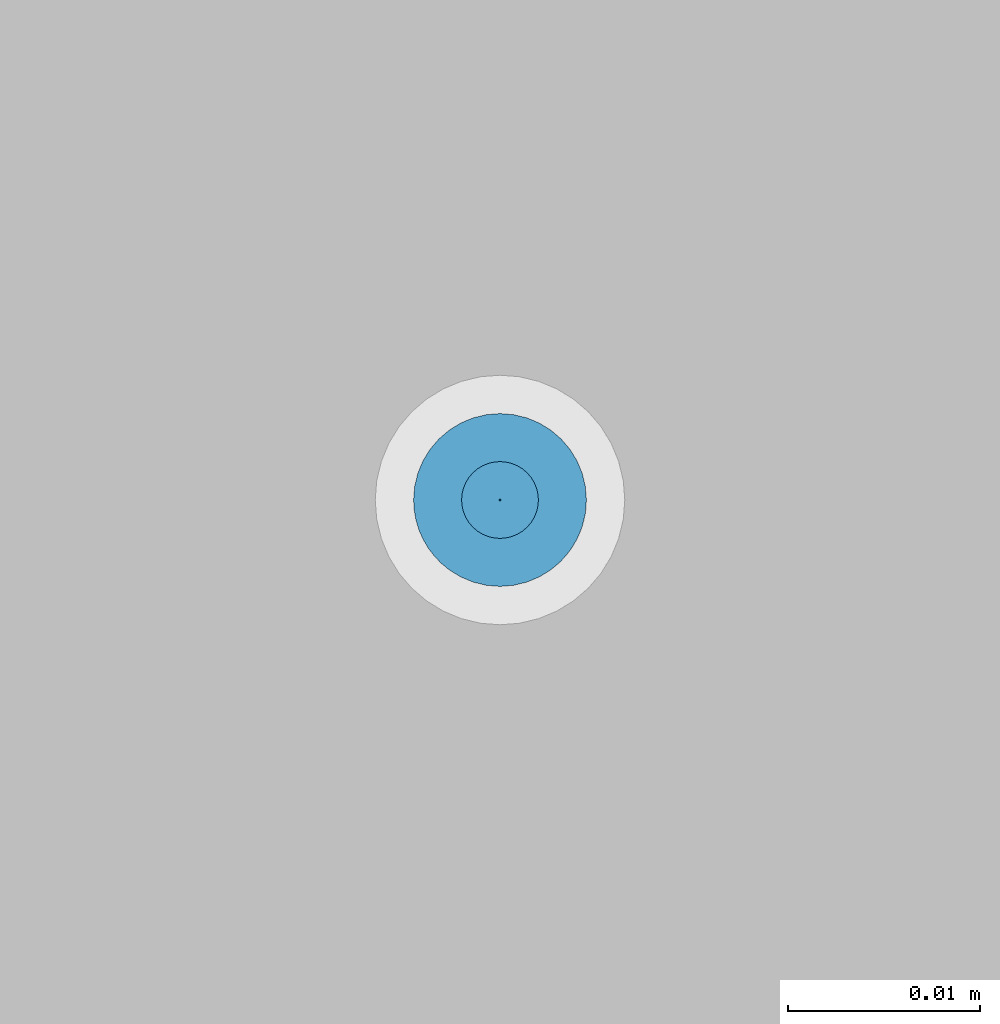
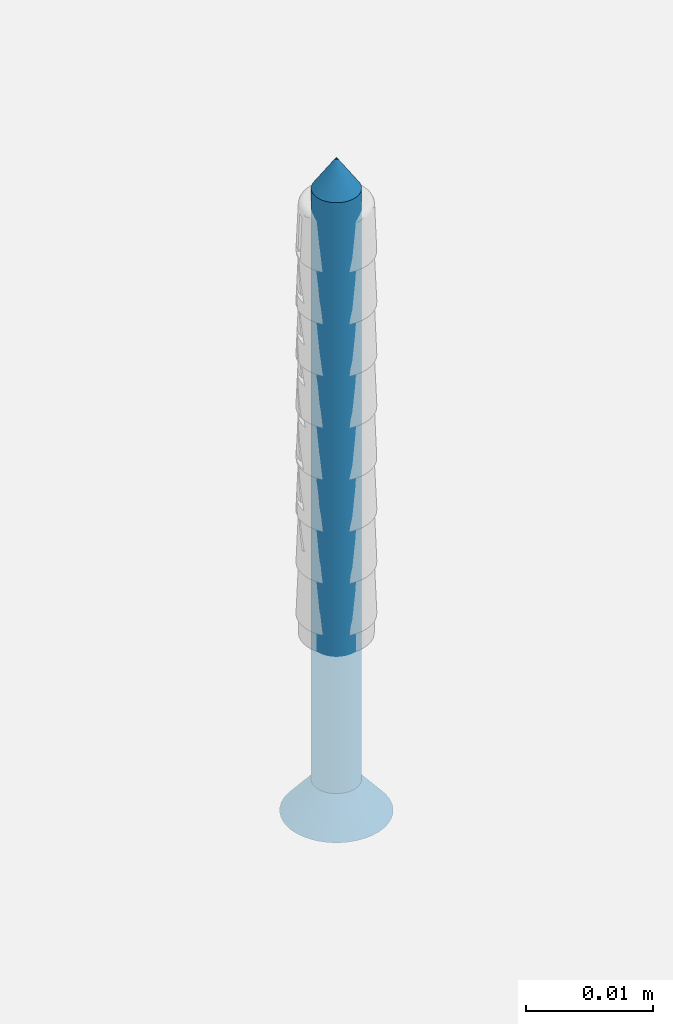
# One storey, part 14 of 92: 1 wall.
"""IFC2X3 building model written with IfcOpenShell, lengths in millimetres."""

import ifcopenshell
import ifcopenshell.guid

model = None  # the IFC model being written
_history = None  # IfcOwnerHistory: only IFC2X3 demands one
_inside = {}  # id of a spatial element -> (the spatial element, [elements in it])
_under = {}  # id of a project, library or spatial element -> (it, [spatial elements below it])
_declared = {}  # id of a project -> (the project, [libraries it declares])
_typed = {}  # id of a type object -> (the type object, [elements of that type])
_made_of = {}  # id of a material, layer set ... -> (it, [elements and type objects made of it])


def new_model(schema):
    """Start an empty IFC model of exactly this schema.

    Asked for "IFC4X3", IfcOpenShell would pick the latest addendum, in which some entities
    have other attributes; the version numbers below select the first issue.
    IFC2X3 requires an IfcOwnerHistory on every rooted entity: one is made here for all.
    """
    global model, _history
    if schema == "IFC4X3":
        model = ifcopenshell.file(schema_version=(4, 3, 0, 0))
    else:
        model = ifcopenshell.file(schema=schema)
    _inside.clear()
    _under.clear()
    _declared.clear()
    _typed.clear()
    _made_of.clear()
    _history = None
    if model.schema == "IFC2X3":
        org = make("IfcOrganization", Name="unknown")
        user = make(
            "IfcPersonAndOrganization",
            ThePerson=make("IfcPerson", FamilyName="unknown"),
            TheOrganization=org,
        )
        app = make(
            "IfcApplication",
            ApplicationDeveloper=org,
            Version="unknown",
            ApplicationFullName="unknown",
            ApplicationIdentifier="unknown",
        )
        _history = make(
            "IfcOwnerHistory",
            OwningUser=user,
            OwningApplication=app,
            ChangeAction="ADDED",
            CreationDate=0,
        )
    return model


def make(cls, **values):
    """One entity of the class cls with the attributes given. An attribute that is None is left unset."""
    return model.create_entity(
        cls, **{name: value for name, value in values.items() if value is not None}
    )


def rooted(cls, **values):
    """An entity with a GlobalId (a new one), such as an element, a storey or a relation."""
    return make(cls, GlobalId=ifcopenshell.guid.new(), OwnerHistory=_history, **values)


def si_unit(unit_type, name, prefix=None):
    """IfcSIUnit, for example si_unit("LENGTHUNIT", "METRE", prefix="MILLI")."""
    return make("IfcSIUnit", UnitType=unit_type, Prefix=prefix, Name=name)


def assignment(units):
    """IfcUnitAssignment: the units of a project."""
    return None if units is None else make("IfcUnitAssignment", Units=units)


def point(xyz):
    """IfcCartesianPoint."""
    return None if xyz is None else make("IfcCartesianPoint", Coordinates=xyz)


def direction(xyz):
    """IfcDirection."""
    return None if xyz is None else make("IfcDirection", DirectionRatios=xyz)


def frame(location, z_axis=None, x_axis=None):
    """IfcAxis2Placement3D, a coordinate frame: its origin and axes. An axis left out is left unset."""
    return make(
        "IfcAxis2Placement3D",
        Location=point(location),
        Axis=direction(z_axis),
        RefDirection=direction(x_axis),
    )


def origin_with_axes():
    """The frame at (0, 0, 0) with the z axis (0, 0, 1) and the x axis (1, 0, 0) written out."""
    return frame((0.0, 0.0, 0.0), z_axis=(0.0, 0.0, 1.0), x_axis=(1.0, 0.0, 0.0))


def place(relative_to, where):
    """IfcLocalPlacement: puts the frame where relative to a parent placement (None: the world)."""
    return make(
        "IfcLocalPlacement", PlacementRelTo=relative_to, RelativePlacement=where
    )


def context(
    kind, dimensions, precision=None, world=None, true_north=None, identifier=None
):
    """IfcGeometricRepresentationContext, for example the 3D "Model" context."""
    return make(
        "IfcGeometricRepresentationContext",
        ContextIdentifier=identifier,
        ContextType=kind,
        CoordinateSpaceDimension=dimensions,
        Precision=precision,
        WorldCoordinateSystem=world,
        TrueNorth=true_north,
    )


def subcontext(parent, identifier, kind, view, scale=None):
    """IfcGeometricRepresentationSubContext, for example "Body" below "Model"."""
    return make(
        "IfcGeometricRepresentationSubContext",
        ContextIdentifier=identifier,
        ContextType=kind,
        ParentContext=parent,
        TargetScale=scale,
        TargetView=view,
    )


def project(units=None, contexts=None):
    """IfcProject with its units and contexts."""
    return rooted(
        "IfcProject",
        Name="project",
        RepresentationContexts=contexts,
        UnitsInContext=assignment(units),
    )


def spatial(cls, under=None, at=None, **own):
    """A site, building, storey or space (cls), placed at a placement, below another one or the project."""
    s = rooted(cls, ObjectPlacement=at, **own)
    if under is not None:
        _under.setdefault(under.id(), (under, []))[1].append(s)
    return s


def faces_of(points, faces, orient=None, outer=None):
    """IfcFace entities. A face is a list of loops; a loop is a list of indices into points, from 0.

    orient and outer hold one flag for each loop. By default every Orientation is true, the
    first loop of a face is its IfcFaceOuterBound and the others are IfcFaceBound.
    """
    made = []
    for i, loops in enumerate(faces):
        bounds = []
        for j, loop in enumerate(loops):
            is_outer = j == 0 if outer is None else outer[i][j]
            bounds.append(
                make(
                    "IfcFaceOuterBound" if is_outer else "IfcFaceBound",
                    Bound=make("IfcPolyLoop", Polygon=[points[k] for k in loop]),
                    Orientation=True if orient is None else orient[i][j],
                )
            )
        made.append(make("IfcFace", Bounds=bounds))
    return made


def faceted_brep(points, faces, orient=None, outer=None, voids=None):
    """IfcFacetedBrep: a solid bounded by flat faces; with voids (closed shells), ...WithVoids."""
    shared = [point(p) for p in points]
    hull = make("IfcClosedShell", CfsFaces=faces_of(shared, faces, orient, outer))
    if voids is None:
        return make("IfcFacetedBrep", Outer=hull)
    return make(
        "IfcFacetedBrepWithVoids",
        Outer=hull,
        Voids=[
            make(cls, CfsFaces=faces_of(shared, fs, o, b)) for cls, fs, o, b in voids
        ],
    )


def shape(context_of_items, identifier, shape_type, items):
    """IfcShapeRepresentation: the items that make up one representation, for example the "Body"."""
    return make(
        "IfcShapeRepresentation",
        ContextOfItems=context_of_items,
        RepresentationIdentifier=identifier,
        RepresentationType=shape_type,
        Items=items,
    )


def material(Name=None, Category=None):
    """IfcMaterial."""
    return make("IfcMaterial", Name=Name, Category=Category)


def made_of(thing, what):
    """Note that an element or type object is made of a material, layer set ...; save() writes the relation."""
    if what is not None:
        _made_of.setdefault(what.id(), (what, []))[1].append(thing)
    return thing


def type_object(cls, material=None, **own):
    """A type object (cls), such as IfcWallType, which elements share."""
    return made_of(rooted(cls, **own), material)


def element(
    cls,
    number,
    at=None,
    inside=None,
    cuts=None,
    type_object=None,
    material=None,
    context=None,
    identifier="Body",
    shape_type=None,
    held_by="IfcProductDefinitionShape",
    body=None,
    shapes=None,
    **own,
):
    """One element of the class cls, such as IfcWall. Its Tag is "e" and its number.

    at: its placement. inside: the storey or other place that contains it. cuts: it is an
    opening in that element (IfcRelVoidsElement). A single representation is given by context,
    identifier, shape_type and body (its items); several are given by shapes. held_by: the class
    of the entity that holds the representations. save() writes the other relations.
    """
    e = rooted(cls, Tag="e%d" % number, ObjectPlacement=at, **own)
    if body is not None:
        shapes = [shape(context, identifier, shape_type, body)]
    if shapes is not None:
        e.Representation = make(held_by, Representations=shapes)
    if inside is not None:
        _inside.setdefault(inside.id(), (inside, []))[1].append(e)
    if cuts is not None:
        rooted(
            "IfcRelVoidsElement", RelatingBuildingElement=cuts, RelatedOpeningElement=e
        )
    if type_object is not None:
        _typed.setdefault(type_object.id(), (type_object, []))[1].append(e)
    return made_of(e, material)


def aggregate(whole, parts):
    """IfcRelAggregates: a whole, such as a stair, and the parts it consists of."""
    return rooted("IfcRelAggregates", RelatingObject=whole, RelatedObjects=parts)


def save(model, path):
    """Write the relations noted so far, then the file.

    IfcRelAggregates (storeys below a building ...), IfcRelContainedInSpatialStructure (elements
    in a storey), IfcRelDefinesByType, IfcRelAssociatesMaterial and IfcRelDeclares: one each for
    every whole, place, type object, material and project.
    """
    for whole, parts in _under.values():
        aggregate(whole, parts)
    for where, things in _inside.values():
        rooted(
            "IfcRelContainedInSpatialStructure",
            RelatedElements=things,
            RelatingStructure=where,
        )
    for kind, things in _typed.values():
        rooted("IfcRelDefinesByType", RelatedObjects=things, RelatingType=kind)
    for what, things in _made_of.values():
        rooted("IfcRelAssociatesMaterial", RelatedObjects=things, RelatingMaterial=what)
    for by, libraries in _declared.values():
        rooted("IfcRelDeclares", RelatingContext=by, RelatedDefinitions=libraries)
    model.write(path)


model = new_model("IFC2X3")

# Units and contexts
model_context = context("Model", 3, world=origin_with_axes())
body_context = subcontext(model_context, "Body", "Model", "MODEL_VIEW")
ifc_project = project(units=[si_unit("LENGTHUNIT", "METRE", prefix="MILLI"), si_unit("AREAUNIT", "SQUARE_METRE"), si_unit("VOLUMEUNIT", "CUBIC_METRE")], contexts=[model_context])

# Site, building, storey
site_placement = place(None, origin_with_axes())
site = spatial("IfcSite", under=ifc_project, at=site_placement, Name="Default Site", CompositionType="ELEMENT")
building_placement = place(site_placement, origin_with_axes())
building = spatial("IfcBuilding", under=site, at=building_placement, Name="Default Building", CompositionType="ELEMENT")
storey_placement = place(building_placement, origin_with_axes())
storey = spatial("IfcBuildingStorey", under=building, at=storey_placement, Name="Default Building Storey", CompositionType="ELEMENT", Elevation=0.0)

# Wall
ifc_material = material(Name="Default")
wall_type = type_object("IfcWallType", Name="Kołek rozporowy min. fi 6", PredefinedType="NOTDEFINED")
wall_placement = place(storey_placement, frame((3530.2813105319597, 2355.5457902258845, 2570.0054142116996), z_axis=(5.273559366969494e-16, -2.122374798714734e-31, -1.0), x_axis=(4.0245584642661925e-16, 1.0, 0.0)))
element("IfcWall", 1, at=wall_placement, inside=storey, type_object=wall_type, material=ifc_material, Name="Kołek rozporowy min. fi 6", context=body_context, shape_type="Brep", body=[
    faceted_brep([(-1438.2587671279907, -3452.579259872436, -0.46425670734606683), (-1435.7895851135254, -3452.970266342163, -3.464256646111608), (-1435.8141422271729, -3453.2833099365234, -3.464256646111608), (-1438.3141994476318, -3453.2833099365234, -0.46425670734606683), (-1438.093900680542, -3451.892614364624, -0.46425670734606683), (-1435.7162714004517, -3452.6650905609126, -3.464256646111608), (-1437.8236532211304, -3451.240301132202, -0.46425670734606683), (-1435.5961084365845, -3452.3751735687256, -3.464256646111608), (-1437.4547004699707, -3450.6382942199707, -0.46425670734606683), (-1435.4321956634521, -3452.107667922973, -3.464256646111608), (-1436.9961023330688, -3450.101137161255, -0.46425670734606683), (-1435.22834777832, -3451.8690109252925, -3.464256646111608), (-1436.4591836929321, -3449.642658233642, -0.46425670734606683), (-1434.9896907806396, -3451.665163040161, -3.464256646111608), (-1435.8570575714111, -3449.2735862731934, -0.46425670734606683), (-1434.7221851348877, -3451.501131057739, -3.464256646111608), (-1435.2047443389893, -3449.0034580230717, -0.46425670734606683), (-1434.4321489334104, -3451.381206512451, -3.464256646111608), (-1434.5180988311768, -3448.838710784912, -0.46425670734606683), (-1434.1269731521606, -3451.307773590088, -3.464256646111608), (-1433.8141679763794, -3448.7831592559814, -0.46425670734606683), (-1433.8141679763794, -3451.28321647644, -3.464256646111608), (-1433.110237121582, -3448.838710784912, -0.46425670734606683), (-1433.5012435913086, -3451.307773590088, -3.464256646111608), (-1432.4235916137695, -3449.0034580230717, -0.46425670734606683), (-1433.1960678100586, -3451.381206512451, -3.464256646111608), (-1431.771159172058, -3449.2735862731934, -0.46425670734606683), (-1432.9061508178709, -3451.501131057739, -3.464256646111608), (-1431.1691522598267, -3449.642658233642, -0.46425670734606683), (-1432.6385259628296, -3451.665163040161, -3.464256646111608), (-1430.6321144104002, -3450.101137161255, -0.46425670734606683), (-1432.3999881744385, -3451.8690109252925, -3.464256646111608), (-1430.1735162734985, -3450.6382942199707, -0.46425670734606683), (-1432.1961402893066, -3452.107667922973, -3.464256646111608), (-1429.8045635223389, -3451.240301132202, -0.46425670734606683), (-1432.0321083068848, -3452.3751735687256, -3.464256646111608), (-1429.5344352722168, -3451.892614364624, -0.46425670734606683), (-1431.9120645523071, -3452.6650905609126, -3.464256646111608), (-1431.814193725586, -3453.2833099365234, -3.464256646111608), (-1429.314136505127, -3453.2833099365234, -0.46425670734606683), (-1429.369568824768, -3453.9871215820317, -0.46425670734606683), (-1431.8387508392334, -3453.5961151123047, -3.464256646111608), (-1431.8387508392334, -3452.970266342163, -3.464256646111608), (-1429.369568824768, -3452.579259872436, -0.46425670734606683), (-1429.5344352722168, -3454.6737670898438, -0.46425670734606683), (-1431.9120645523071, -3453.9012908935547, -3.464256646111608), (-1429.8045635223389, -3455.3260803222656, -0.46425670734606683), (-1432.0321083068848, -3454.191207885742, -3.464256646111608), (-1430.1735162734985, -3455.9283256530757, -0.46425670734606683), (-1432.1961402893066, -3454.458713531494, -3.464256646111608), (-1430.6321144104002, -3456.465244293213, -0.46425670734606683), (-1432.3999881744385, -3454.6973705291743, -3.464256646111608), (-1431.1691522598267, -3456.923723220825, -0.46425670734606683), (-1432.6385259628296, -3454.9012184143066, -3.464256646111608), (-1431.771159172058, -3457.2927951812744, -0.46425670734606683), (-1432.9061508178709, -3455.065250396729, -3.464256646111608), (-1432.4235916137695, -3457.562923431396, -0.46425670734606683), (-1433.1960678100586, -3455.1854133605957, -3.464256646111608), (-1433.110237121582, -3457.7279090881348, -0.46425670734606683), (-1433.5012435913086, -3455.25860786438, -3.464256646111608), (-1433.8141679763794, -3457.7832221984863, -0.46425670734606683), (-1433.8141679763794, -3455.283164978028, -3.464256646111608), (-1434.1269731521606, -3455.25860786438, -3.464256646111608), (-1434.3430995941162, -3457.7519893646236, -0.46425670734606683), (-1434.4321489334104, -3455.1854133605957, -3.464256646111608), (-1434.8646402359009, -3457.6590061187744, -0.46425670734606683), (-1435.3716373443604, -3457.504987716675, -0.46425670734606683), (-1434.7221851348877, -3455.065250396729, -3.464256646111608), (-1435.8570575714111, -3457.2927951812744, -0.46425670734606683), (-1436.3142251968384, -3457.024812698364, -0.46425670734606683), (-1435.22834777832, -3454.6973705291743, -3.464256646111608), (-1434.9896907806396, -3454.9012184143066, -3.464256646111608), (-1436.7367029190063, -3456.705093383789, -0.46425670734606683), (-1437.118649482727, -3456.337928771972, -0.46425670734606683), (-1435.4321956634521, -3454.458713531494, -3.464256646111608), (-1437.4547004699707, -3455.9283256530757, -0.46425670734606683), (-1437.8236532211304, -3455.3260803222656, -0.46425670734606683), (-1435.5961084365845, -3454.191207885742, -3.464256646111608), (-1438.093900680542, -3454.6737670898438, -0.46425670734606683), (-1435.7162714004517, -3453.9012908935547, -3.464256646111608), (-1438.2587671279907, -3453.9871215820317, -0.46425670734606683), (-1435.7895851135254, -3453.5961151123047, -3.464256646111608), (-1433.8141679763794, -3455.7831287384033, 0.20073754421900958), (-1434.2052936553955, -3455.752372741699, 0.20073754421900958), (-1434.5866441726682, -3455.6608200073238, 0.20073754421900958), (-1434.9491596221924, -3455.510854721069, 0.20073754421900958), (-1435.2836608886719, -3455.305814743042, 0.20073754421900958), (-1435.581922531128, -3455.0509452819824, 0.20073754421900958), (-1435.836672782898, -3454.7526836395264, 0.20073754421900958), (-1436.0417127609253, -3454.418182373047, 0.20073754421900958), (-1436.1917972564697, -3454.0557861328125, 0.20073754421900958), (-1436.2833499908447, -3453.6743164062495, 0.20073754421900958), (-1436.3141059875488, -3453.2833099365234, 0.20073754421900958), (-1436.2833499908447, -3452.8920650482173, 0.20073754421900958), (-1436.1917972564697, -3452.5105953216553, 0.20073754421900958), (-1436.0417127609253, -3452.148199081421, 0.20073754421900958), (-1435.836672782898, -3451.8136978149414, 0.20073754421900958), (-1435.581922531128, -3451.5154361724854, 0.20073754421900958), (-1435.2836608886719, -3451.260566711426, 0.20073754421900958), (-1434.9491596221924, -3451.0557651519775, 0.20073754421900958), (-1434.5866441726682, -3450.905561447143, 0.20073754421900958), (-1433.8141679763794, -3450.7832527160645, 0.20073754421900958), (-1433.4230422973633, -3450.8140087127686, 0.20073754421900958), (-1434.2052936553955, -3450.8140087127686, 0.20073754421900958), (-1433.0415725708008, -3450.905561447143, 0.20073754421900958), (-1432.6791763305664, -3451.0557651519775, 0.20073754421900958), (-1432.344675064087, -3451.260566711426, 0.20073754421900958), (-1432.0464134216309, -3451.5154361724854, 0.20073754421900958), (-1431.7916631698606, -3451.8136978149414, 0.20073754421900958), (-1431.5866231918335, -3452.148199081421, 0.20073754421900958), (-1431.436538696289, -3452.5105953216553, 0.20073754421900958), (-1431.344985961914, -3452.8920650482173, 0.20073754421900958), (-1431.3141107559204, -3453.2833099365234, 0.20073754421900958), (-1431.344985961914, -3453.6743164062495, 0.20073754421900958), (-1431.436538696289, -3454.0557861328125, 0.20073754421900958), (-1431.5866231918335, -3454.418182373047, 0.20073754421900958), (-1431.7916631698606, -3454.7526836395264, 0.20073754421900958), (-1432.0464134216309, -3455.0509452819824, 0.20073754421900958), (-1432.344675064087, -3455.305814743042, 0.20073754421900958), (-1432.6791763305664, -3455.510854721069, 0.20073754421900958), (-1433.0415725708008, -3455.6608200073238, 0.20073754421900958), (-1433.4230422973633, -3455.752372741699, 0.20073754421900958), (-1435.8141422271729, -3453.2833099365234, -60.464255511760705), (-1435.7895851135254, -3452.970266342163, -60.464255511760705), (-1433.8141679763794, -3453.2833099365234, -63.46425414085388), (-1435.7162714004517, -3452.6650905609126, -60.464255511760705), (-1435.5961084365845, -3452.3751735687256, -60.464255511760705), (-1435.4321956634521, -3452.107667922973, -60.464255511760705), (-1435.22834777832, -3451.8690109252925, -60.464255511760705), (-1434.9896907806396, -3451.665163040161, -60.464255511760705), (-1434.7221851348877, -3451.501131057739, -60.464255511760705), (-1434.4321489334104, -3451.381206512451, -60.464255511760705), (-1434.1269731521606, -3451.307773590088, -60.464255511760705), (-1433.8141679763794, -3451.28321647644, -60.464255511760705), (-1433.5012435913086, -3451.307773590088, -60.464255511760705), (-1433.1960678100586, -3451.381206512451, -60.464255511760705), (-1432.9061508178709, -3451.501131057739, -60.464255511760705), (-1432.6385259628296, -3451.665163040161, -60.464255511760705), (-1432.3999881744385, -3451.8690109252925, -60.464255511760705), (-1432.1961402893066, -3452.107667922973, -60.464255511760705), (-1432.0321083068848, -3452.3751735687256, -60.464255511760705), (-1431.9120645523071, -3452.6650905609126, -60.464255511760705), (-1431.8387508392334, -3452.970266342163, -60.464255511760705), (-1431.814193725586, -3453.2833099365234, -60.464255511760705), (-1431.8387508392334, -3453.5961151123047, -60.464255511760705), (-1431.9120645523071, -3453.9012908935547, -60.464255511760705), (-1432.0321083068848, -3454.191207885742, -60.464255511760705), (-1432.1961402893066, -3454.458713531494, -60.464255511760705), (-1432.3999881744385, -3454.6973705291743, -60.464255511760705), (-1432.6385259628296, -3454.9012184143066, -60.464255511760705), (-1432.9061508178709, -3455.065250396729, -60.464255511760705), (-1433.1960678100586, -3455.1854133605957, -60.464255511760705), (-1433.5012435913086, -3455.25860786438, -60.464255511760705), (-1433.8141679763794, -3455.283164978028, -60.464255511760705), (-1434.1269731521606, -3455.25860786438, -60.464255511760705), (-1434.4321489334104, -3455.1854133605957, -60.464255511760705), (-1434.7221851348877, -3455.065250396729, -60.464255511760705), (-1434.9896907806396, -3454.9012184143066, -60.464255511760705), (-1435.22834777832, -3454.6973705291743, -60.464255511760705), (-1435.4321956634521, -3454.458713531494, -60.464255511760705), (-1435.5961084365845, -3454.191207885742, -60.464255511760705), (-1435.7162714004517, -3453.9012908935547, -60.464255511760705), (-1435.7895851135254, -3453.5961151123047, -60.464255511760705), (-1436.1917972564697, -3454.0557861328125, 0.049999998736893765), (-1436.0417127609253, -3454.418182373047, 0.049999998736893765), (-1435.836672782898, -3454.7526836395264, 0.049999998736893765), (-1435.581922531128, -3455.0509452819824, 0.049999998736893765), (-1435.2836608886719, -3455.305814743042, 0.049999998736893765), (-1434.9491596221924, -3455.510854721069, 0.049999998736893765), (-1434.5866441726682, -3455.6608200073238, 0.049999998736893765), (-1434.2052936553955, -3455.752372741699, 0.049999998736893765), (-1433.8141679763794, -3455.7831287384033, 0.049999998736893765), (-1433.4230422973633, -3455.752372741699, 0.049999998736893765), (-1433.0415725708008, -3455.6608200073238, 0.049999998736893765), (-1432.6791763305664, -3455.510854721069, 0.049999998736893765), (-1432.344675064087, -3455.305814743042, 0.049999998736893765), (-1432.0464134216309, -3455.0509452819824, 0.049999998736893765), (-1431.7916631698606, -3454.7526836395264, 0.049999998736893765), (-1431.5866231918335, -3454.418182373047, 0.049999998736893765), (-1431.436538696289, -3454.0557861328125, 0.049999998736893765), (-1431.344985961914, -3453.6743164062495, 0.049999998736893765), (-1431.3141107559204, -3453.2833099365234, 0.049999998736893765), (-1431.344985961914, -3452.8920650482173, 0.049999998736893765), (-1431.436538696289, -3452.5105953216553, 0.049999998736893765), (-1431.5866231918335, -3452.148199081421, 0.049999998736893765), (-1431.7916631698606, -3451.8136978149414, 0.049999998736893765), (-1432.0464134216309, -3451.5154361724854, 0.049999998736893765), (-1432.344675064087, -3451.260566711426, 0.049999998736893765), (-1432.6791763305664, -3451.0557651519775, 0.049999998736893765), (-1433.0415725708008, -3450.905561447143, 0.049999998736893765), (-1433.4230422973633, -3450.8140087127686, 0.049999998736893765), (-1433.8141679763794, -3450.7832527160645, 0.049999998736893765), (-1434.2052936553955, -3450.8140087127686, 0.049999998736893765), (-1434.5866441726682, -3450.905561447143, 0.049999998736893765), (-1434.9491596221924, -3451.0557651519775, 0.049999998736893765), (-1435.2836608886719, -3451.260566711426, 0.049999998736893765), (-1435.581922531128, -3451.5154361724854, 0.049999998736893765), (-1435.836672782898, -3451.8136978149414, 0.049999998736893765), (-1436.0417127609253, -3452.148199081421, 0.049999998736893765), (-1436.1917972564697, -3452.5105953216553, 0.049999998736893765), (-1436.2833499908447, -3452.8920650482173, 0.049999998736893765), (-1436.3141059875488, -3453.2833099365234, 0.049999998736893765), (-1436.2833499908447, -3453.6743164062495, 0.049999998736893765), (-1434.3141317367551, -3453.7832736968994, 0.049999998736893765), (-1435.8141422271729, -3453.7832736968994, 0.049999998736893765), (-1435.8141422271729, -3452.7831077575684, 0.049999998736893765), (-1434.3141317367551, -3452.7831077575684, 0.049999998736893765), (-1434.3141317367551, -3451.28321647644, 0.049999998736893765), (-1433.3142042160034, -3451.28321647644, 0.049999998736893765), (-1433.3142042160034, -3452.7831077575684, 0.049999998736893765), (-1431.814193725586, -3452.7831077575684, 0.049999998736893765), (-1431.814193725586, -3453.7832736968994, 0.049999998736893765), (-1433.3142042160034, -3453.7832736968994, 0.049999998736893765), (-1433.3142042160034, -3455.283164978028, 0.049999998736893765), (-1434.3141317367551, -3455.283164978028, 0.049999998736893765), (-1435.8141422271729, -3452.7831077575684, -1.799262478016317), (-1435.8141422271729, -3453.7832736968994, -1.799262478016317), (-1434.3141317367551, -3453.7832736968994, -1.799262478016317), (-1434.3141317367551, -3455.283164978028, -1.799262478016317), (-1433.3142042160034, -3455.283164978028, -1.799262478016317), (-1433.3142042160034, -3453.7832736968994, -1.799262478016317), (-1431.814193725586, -3453.7832736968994, -1.799262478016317), (-1431.814193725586, -3452.7831077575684, -1.799262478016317), (-1433.3142042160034, -3452.7831077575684, -1.799262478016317), (-1433.3142042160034, -3451.28321647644, -1.799262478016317), (-1434.3141317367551, -3451.28321647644, -1.799262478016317), (-1434.3141317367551, -3452.7831077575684, -1.799262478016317)], [[[0, 1, 2, 3]], [[1, 0, 4, 5]], [[5, 4, 6, 7]], [[8, 9, 7, 6]], [[9, 8, 10, 11]], [[12, 13, 11, 10]], [[13, 12, 14, 15]], [[15, 14, 16, 17]], [[18, 19, 17, 16]], [[19, 18, 20, 21]], [[22, 23, 21, 20]], [[23, 22, 24, 25]], [[25, 24, 26, 27]], [[28, 29, 27, 26]], [[29, 28, 30, 31]], [[32, 33, 31, 30]], [[33, 32, 34, 35]], [[35, 34, 36, 37]], [[38, 39, 40, 41]], [[42, 43, 39, 38]], [[43, 42, 37, 36]], [[41, 40, 44, 45]], [[45, 44, 46, 47]], [[48, 49, 47, 46]], [[49, 48, 50, 51]], [[52, 53, 51, 50]], [[53, 52, 54, 55]], [[55, 54, 56, 57]], [[58, 59, 57, 56]], [[59, 58, 60, 61]], [[62, 60, 63]], [[62, 61, 60]], [[63, 64, 62]], [[63, 65, 64]], [[64, 65, 66]], [[66, 67, 64]], [[66, 68, 67]], [[69, 70, 71]], [[69, 72, 70]], [[71, 68, 69]], [[71, 67, 68]], [[72, 73, 70]], [[74, 73, 75]], [[74, 70, 73]], [[74, 75, 76, 77]], [[77, 76, 78, 79]], [[80, 81, 79, 78]], [[81, 80, 3, 2]], [[63, 82, 83]], [[63, 60, 82]], [[83, 65, 63]], [[83, 84, 65]], [[84, 68, 66]], [[84, 85, 68]], [[66, 65, 84]], [[69, 85, 86]], [[69, 68, 85]], [[87, 73, 72]], [[72, 86, 87]], [[72, 69, 86]], [[75, 87, 88]], [[75, 73, 87]], [[75, 88, 89, 76]], [[76, 89, 90, 78]], [[91, 80, 78, 90]], [[80, 91, 92, 3]], [[93, 0, 3, 92]], [[0, 93, 94, 4]], [[4, 94, 95, 6]], [[96, 8, 6, 95]], [[8, 96, 97, 10]], [[98, 12, 10, 97]], [[12, 98, 99, 14]], [[14, 99, 100, 16]], [[20, 101, 102, 22]], [[18, 103, 101, 20]], [[103, 18, 16, 100]], [[22, 102, 104, 24]], [[24, 104, 105, 26]], [[106, 28, 26, 105]], [[28, 106, 107, 30]], [[108, 32, 30, 107]], [[32, 108, 109, 34]], [[34, 109, 110, 36]], [[111, 43, 36, 110]], [[43, 111, 112, 39]], [[113, 40, 39, 112]], [[40, 113, 114, 44]], [[44, 114, 115, 46]], [[116, 48, 46, 115]], [[48, 116, 117, 50]], [[118, 52, 50, 117]], [[52, 118, 119, 54]], [[54, 119, 120, 56]], [[121, 58, 56, 120]], [[58, 121, 82, 60]], [[122, 123, 124]], [[123, 125, 124]], [[125, 126, 124]], [[124, 126, 127]], [[127, 128, 124]], [[124, 128, 129]], [[129, 130, 124]], [[130, 131, 124]], [[124, 131, 132]], [[132, 133, 124]], [[124, 133, 134]], [[134, 135, 124]], [[135, 136, 124]], [[124, 136, 137]], [[137, 138, 124]], [[124, 138, 139]], [[139, 140, 124]], [[140, 141, 124]], [[124, 141, 142]], [[142, 143, 124]], [[124, 143, 144]], [[144, 145, 124]], [[145, 146, 124]], [[124, 146, 147]], [[147, 148, 124]], [[124, 148, 149]], [[149, 150, 124]], [[150, 151, 124]], [[124, 151, 152]], [[152, 153, 124]], [[124, 153, 154]], [[154, 155, 124]], [[155, 156, 124]], [[124, 156, 157]], [[157, 158, 124]], [[124, 158, 159]], [[159, 160, 124]], [[160, 161, 124]], [[124, 161, 162]], [[124, 162, 122]], [[1, 123, 122, 2]], [[123, 1, 5, 125]], [[125, 5, 7, 126]], [[9, 127, 126, 7]], [[127, 9, 11, 128]], [[13, 129, 128, 11]], [[129, 13, 15, 130]], [[130, 15, 17, 131]], [[19, 132, 131, 17]], [[132, 19, 21, 133]], [[23, 134, 133, 21]], [[134, 23, 25, 135]], [[135, 25, 27, 136]], [[29, 137, 136, 27]], [[137, 29, 31, 138]], [[33, 139, 138, 31]], [[139, 33, 35, 140]], [[140, 35, 37, 141]], [[143, 38, 41, 144]], [[142, 42, 38, 143]], [[42, 142, 141, 37]], [[144, 41, 45, 145]], [[145, 45, 47, 146]], [[49, 147, 146, 47]], [[147, 49, 51, 148]], [[53, 149, 148, 51]], [[149, 53, 55, 150]], [[150, 55, 57, 151]], [[59, 152, 151, 57]], [[152, 59, 61, 153]], [[62, 154, 153, 61]], [[154, 62, 64, 155]], [[155, 64, 67, 156]], [[71, 157, 156, 67]], [[157, 71, 70, 158]], [[74, 159, 158, 70]], [[159, 74, 77, 160]], [[160, 77, 79, 161]], [[81, 162, 161, 79]], [[162, 81, 2, 122]], [[163, 164, 165, 166, 167, 168, 169, 170, 171, 172, 173, 174, 175, 176, 177, 178, 179, 180, 181, 182, 183, 184, 185, 186, 187, 188, 189, 190, 191, 192, 193, 194, 195, 196, 197, 198, 199, 200, 201, 202], [203, 204, 205, 206, 207, 208, 209, 210, 211, 212, 213, 214]], [[113, 112, 181, 180]], [[180, 179, 114, 113]], [[179, 178, 115, 114]], [[116, 115, 178, 177]], [[177, 176, 117, 116]], [[118, 117, 176, 175]], [[175, 174, 119, 118]], [[174, 173, 120, 119]], [[121, 120, 173, 172]], [[172, 171, 82, 121]], [[83, 82, 171, 170]], [[170, 169, 84, 83]], [[169, 168, 85, 84]], [[86, 85, 168, 167]], [[167, 166, 87, 86]], [[88, 87, 166, 165]], [[165, 164, 89, 88]], [[164, 163, 90, 89]], [[201, 200, 93, 92]], [[202, 201, 92, 91]], [[91, 90, 163, 202]], [[200, 199, 94, 93]], [[199, 198, 95, 94]], [[96, 95, 198, 197]], [[197, 196, 97, 96]], [[98, 97, 196, 195]], [[195, 194, 99, 98]], [[194, 193, 100, 99]], [[103, 100, 193, 192]], [[192, 191, 101, 103]], [[102, 101, 191, 190]], [[190, 189, 104, 102]], [[189, 188, 105, 104]], [[106, 105, 188, 187]], [[187, 186, 107, 106]], [[108, 107, 186, 185]], [[185, 184, 109, 108]], [[184, 183, 110, 109]], [[111, 110, 183, 182]], [[182, 181, 112, 111]], [[215, 216, 217, 218, 219, 220, 221, 222, 223, 224, 225, 226]], [[224, 208, 207, 225]], [[225, 207, 206, 226]], [[226, 206, 205, 215]], [[215, 205, 204, 216]], [[216, 204, 203, 217]], [[217, 203, 214, 218]], [[218, 214, 213, 219]], [[219, 213, 212, 220]], [[220, 212, 211, 221]], [[221, 211, 210, 222]], [[222, 210, 209, 223]], [[223, 209, 208, 224]]]),
])

save(model, "model.ifc")
